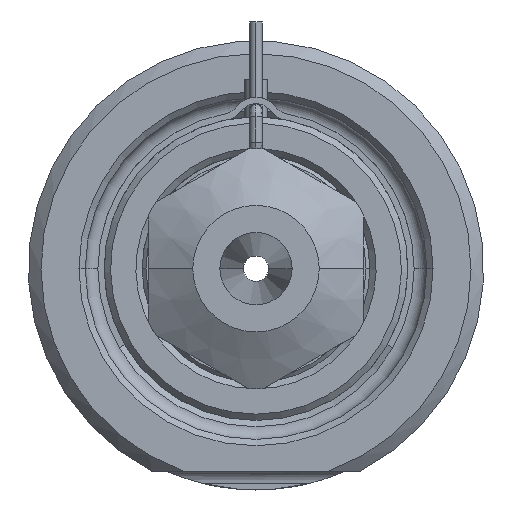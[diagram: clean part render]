
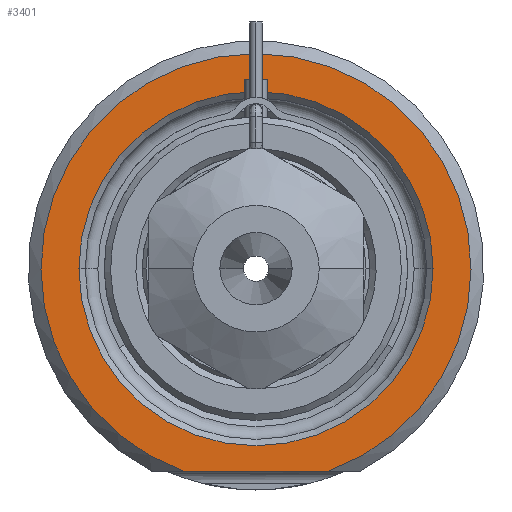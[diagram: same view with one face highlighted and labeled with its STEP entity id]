
A CAD part, front view. The second image highlights one B-rep face of the part: STEP entity #3401.
In plain terms, the highlighted planar face has unit normal (0, -1, 0).
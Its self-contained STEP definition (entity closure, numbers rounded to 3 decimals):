
#702=DIRECTION('',(1.,0.,0.));
#703=VECTOR('',#702,11.489);
#704=CARTESIAN_POINT('',(-5.745,0.,-16.));
#705=LINE('',#704,#703);
#706=CARTESIAN_POINT('',(0.,0.,0.));
#707=DIRECTION('',(0.,1.,0.));
#708=DIRECTION('',(-1.,0.,0.));
#709=AXIS2_PLACEMENT_3D('',#706,#707,#708);
#711=CARTESIAN_POINT('',(0.,0.,0.));
#712=DIRECTION('',(0.,1.,0.));
#713=DIRECTION('',(1.,0.,0.));
#714=AXIS2_PLACEMENT_3D('',#711,#712,#713);
#818=CARTESIAN_POINT('',(0.,0.,0.));
#819=DIRECTION('',(0.,-1.,0.));
#820=DIRECTION('',(0.338,0.,-0.941));
#821=AXIS2_PLACEMENT_3D('',#818,#819,#820);
#2193=CARTESIAN_POINT('',(-14.,0.,0.));
#2194=CARTESIAN_POINT('',(14.,0.,0.));
#2195=VERTEX_POINT('',#2193);
#2196=VERTEX_POINT('',#2194);
#2243=CARTESIAN_POINT('',(-5.745,0.,-16.));
#2244=CARTESIAN_POINT('',(5.745,0.,-16.));
#2245=VERTEX_POINT('',#2243);
#2246=VERTEX_POINT('',#2244);
#3385=CARTESIAN_POINT('',(0.,0.,0.));
#3386=DIRECTION('',(0.,-1.,0.));
#3387=DIRECTION('',(1.,0.,0.));
#3388=AXIS2_PLACEMENT_3D('',#3385,#3386,#3387);
#3389=PLANE('',#3388);
#3391=ORIENTED_EDGE('',*,*,#3390,.F.);
#3393=ORIENTED_EDGE('',*,*,#3392,.F.);
#3394=EDGE_LOOP('',(#3391,#3393));
#3395=FACE_OUTER_BOUND('',#3394,.F.);
#3397=ORIENTED_EDGE('',*,*,#3396,.F.);
#3398=ORIENTED_EDGE('',*,*,#3375,.F.);
#3399=EDGE_LOOP('',(#3397,#3398));
#3400=FACE_BOUND('',#3399,.F.);
#3401=ADVANCED_FACE('',(#3395,#3400),#3389,.T.);
#710=CIRCLE('',#709,14.);
#715=CIRCLE('',#714,14.);
#822=CIRCLE('',#821,17.);
#3375=EDGE_CURVE('',#2196,#2195,#715,.T.);
#3390=EDGE_CURVE('',#2245,#2246,#705,.T.);
#3392=EDGE_CURVE('',#2246,#2245,#822,.T.);
#3396=EDGE_CURVE('',#2195,#2196,#710,.T.);
